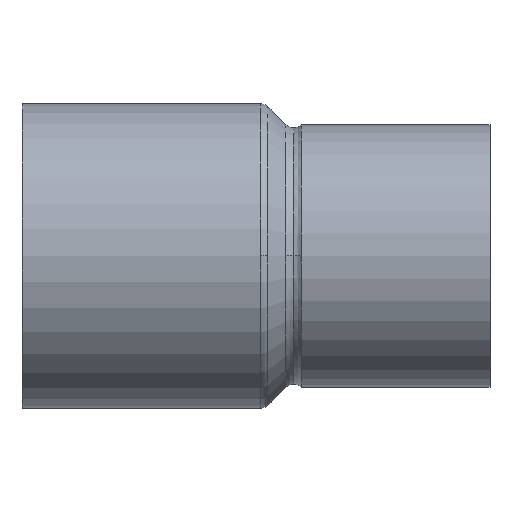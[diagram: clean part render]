
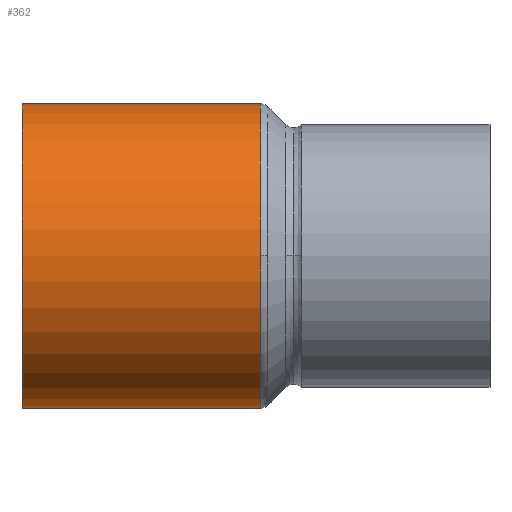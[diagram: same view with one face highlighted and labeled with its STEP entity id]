
A CAD part, top view. The second image highlights one B-rep face of the part: STEP entity #362.
In plain terms, the highlighted cylindrical face has radius 14 mm (diameter 28 mm), a partial arc.
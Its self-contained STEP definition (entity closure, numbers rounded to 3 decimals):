
#312=CARTESIAN_POINT('',(10.942,0.0,0.0));
#313=DIRECTION('',(1.0,0.0,0.0));
#314=DIRECTION('',(0.0,1.0,0.0));
#315=AXIS2_PLACEMENT_3D('',#312,#313,#314);
#316=CYLINDRICAL_SURFACE('',#315,14.);
#317=CARTESIAN_POINT('',(0.,14.,0.0));
#318=VERTEX_POINT('',#317);
#319=CARTESIAN_POINT('',(21.883,14.,0.0));
#320=VERTEX_POINT('',#319);
#321=CARTESIAN_POINT('',(0.,14.,0.0));
#322=DIRECTION('',(1.0,0.0,0.0));
#323=VECTOR('',#322,21.883);
#324=LINE('',#321,#323);
#325=EDGE_CURVE('',#318,#320,#324,.T.);
#326=ORIENTED_EDGE('',*,*,#325,.F.);
#327=CARTESIAN_POINT('',(0.,-14.,0.));
#328=VERTEX_POINT('',#327);
#329=CARTESIAN_POINT('',(0.,0.0,0.0));
#330=DIRECTION('',(1.0,0.0,0.0));
#331=DIRECTION('',(0.0,1.0,0.0));
#332=AXIS2_PLACEMENT_3D('',#329,#330,#331);
#333=CIRCLE('',#332,14.);
#334=EDGE_CURVE('',#318,#328,#333,.T.);
#335=ORIENTED_EDGE('',*,*,#334,.T.);
#336=CARTESIAN_POINT('',(21.883,-14.,0.));
#337=VERTEX_POINT('',#336);
#338=CARTESIAN_POINT('',(21.883,-14.,0.));
#339=DIRECTION('',(-1.0,0.0,0.0));
#340=VECTOR('',#339,21.883);
#341=LINE('',#338,#340);
#342=EDGE_CURVE('',#337,#328,#341,.T.);
#343=ORIENTED_EDGE('',*,*,#342,.F.);
#344=CARTESIAN_POINT('',(21.883,0.,14.));
#345=VERTEX_POINT('',#344);
#346=CARTESIAN_POINT('',(21.883,0.0,0.0));
#347=DIRECTION('',(1.0,0.0,0.0));
#348=DIRECTION('',(0.0,1.0,0.0));
#349=AXIS2_PLACEMENT_3D('',#346,#347,#348);
#350=CIRCLE('',#349,14.);
#351=EDGE_CURVE('',#345,#337,#350,.T.);
#352=ORIENTED_EDGE('',*,*,#351,.F.);
#353=CARTESIAN_POINT('',(21.883,0.0,0.0));
#354=DIRECTION('',(1.0,0.0,0.0));
#355=DIRECTION('',(0.0,1.0,0.0));
#356=AXIS2_PLACEMENT_3D('',#353,#354,#355);
#357=CIRCLE('',#356,14.);
#358=EDGE_CURVE('',#320,#345,#357,.T.);
#359=ORIENTED_EDGE('',*,*,#358,.F.);
#360=EDGE_LOOP('',(#326,#335,#343,#352,#359));
#361=FACE_OUTER_BOUND('',#360,.T.);
#362=ADVANCED_FACE('',(#361),#316,.T.);
